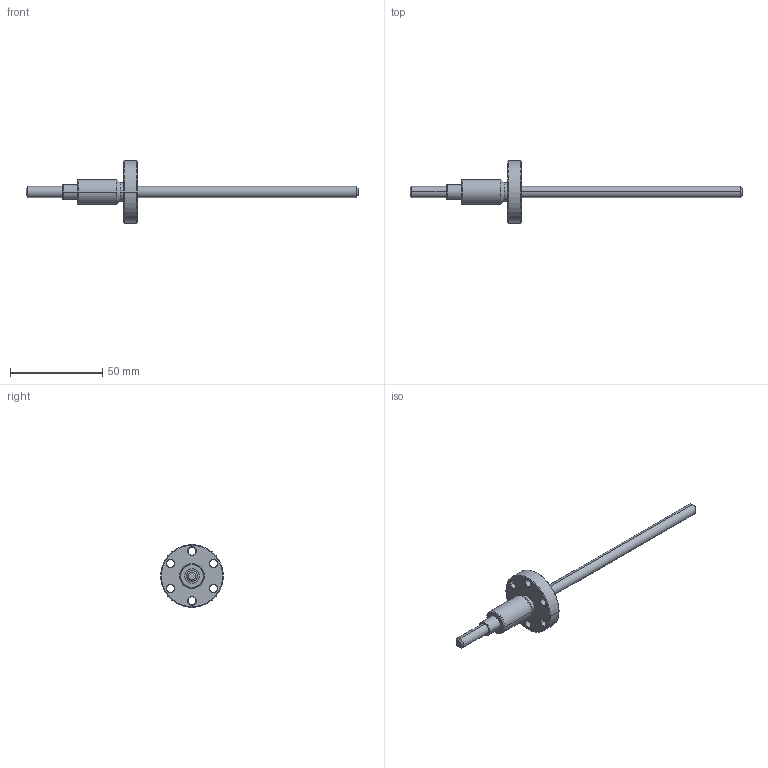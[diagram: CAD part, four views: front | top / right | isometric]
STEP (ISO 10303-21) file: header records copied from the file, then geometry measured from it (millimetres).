
FILE_DESCRIPTION((''),'2;1');
FILE_NAME('N:\Transfer\Berger Martin\Leybold\C15\210335.stp','2005-02-07T09:58:13',('VCRC_L'),(''),'Autodesk Inventor 9','Autodesk Inventor 9','');
FILE_SCHEMA(('AUTOMOTIVE_DESIGN { 1 0 10303 214 1 1 1 1 }'));
Length unit declared in the file: millimetre
Products named in the file (1): 210335
Bounding box: 180 x 34 x 34 mm (x, y, z)
Volume: 12448.4 mm3; surface area: 8698.8 mm2
Topology: 1 solids, 1 shells, 117 faces, 277 edges, 173 vertices
Faces by surface type: cone 46, cylinder 24, bspline 22, plane 13, torus 12
Entity records: 3993 total; most frequent: CARTESIAN_POINT 1158, DIRECTION 662, ORIENTED_EDGE 554, AXIS2_PLACEMENT_3D 289, EDGE_CURVE 277, CIRCLE 193, VERTEX_POINT 173, EDGE_LOOP 140
